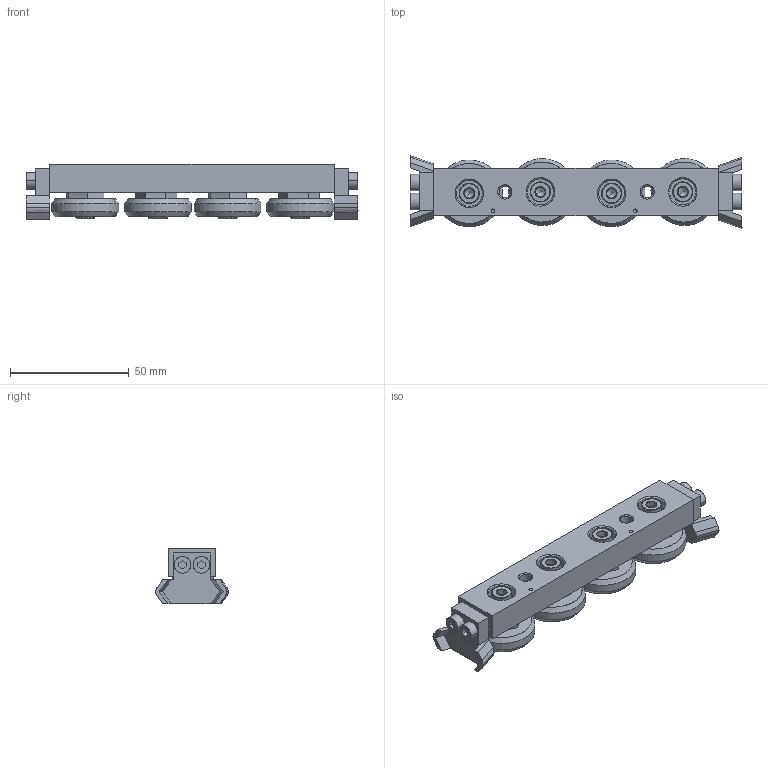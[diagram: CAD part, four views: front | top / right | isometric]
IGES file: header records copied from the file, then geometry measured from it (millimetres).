
Start section: SolidWorks IGES file using analytic representation for surfaces
Global section: file name: C:\Users\liam_\OneDrive\Documents\WORK\Work for WixRoyd\Job Files\J-00018 - L1918-L1963 LCompact Rail\L1935_v2\L1935.CSW35_v2\L1935.CSW35_v2_20190522_IGES\L1935.CSW35-120-2RSTB.igs; native system: SolidWorks 2017; preprocessor: SolidWorks 2017; author: liam_; date: 190528.222821; units: millimetre
Bounding box: 140 x 30.56 x 23.2 mm (x, y, z)
Surface area: 22929.8 mm2 (no closed solid volume)
Topology: 0 solids, 0 shells, 422 faces, 4908 edges, 4884 vertices
Faces by surface type: revolution 216, bspline 206
